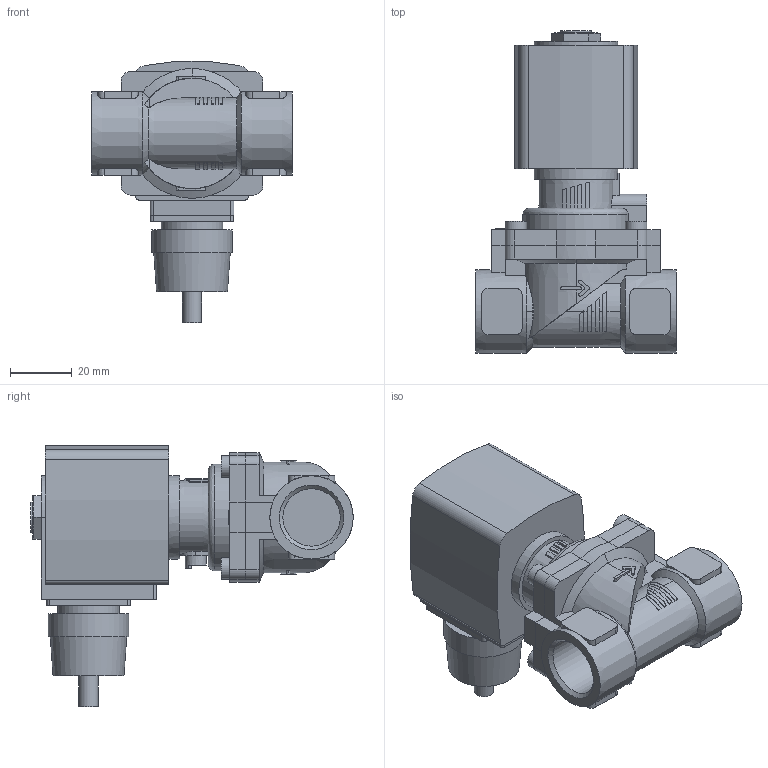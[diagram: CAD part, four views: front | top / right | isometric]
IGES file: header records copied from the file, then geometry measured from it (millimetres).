
Start section: Data from Parasolid IGES Translator 26.0.171, Copyright(c) 2006 Siemens PLM Software. All Rights Reserved.
Global section: file name: 6281-369436-2_2-Way_Solenoid_Valve__Servo-assisted__General_Purpose.igs; native system: By Siemens PLM Incorporated; preprocessor: XPlus GENERIC/IGES 26.0.171; author: Noname; organization: Noname; date: 20240621.144049; units: millimetre
Bounding box: 65 x 104.5 x 84.63 mm (x, y, z)
Surface area: 33394.5 mm2 (no closed solid volume)
Topology: 0 solids, 0 shells, 342 faces, 1820 edges, 1806 vertices
Faces by surface type: extrusion 205, revolution 137
